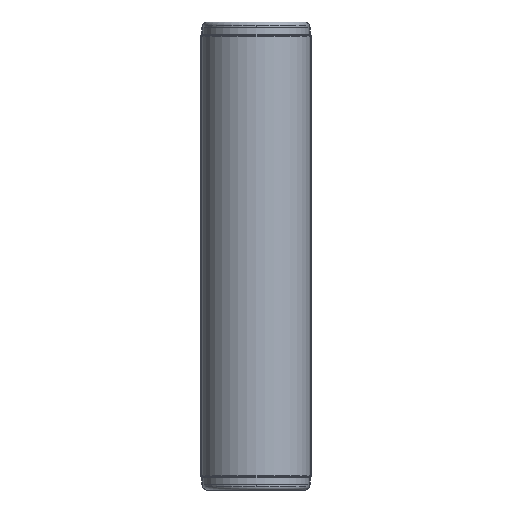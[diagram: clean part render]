
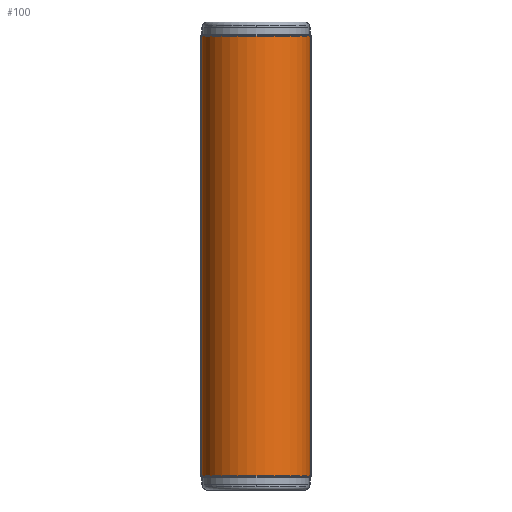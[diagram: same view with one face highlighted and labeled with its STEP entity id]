
A CAD part, left-side view. The second image highlights one B-rep face of the part: STEP entity #100.
In plain terms, the highlighted cylindrical face has radius 75.3 mm (diameter 150.6 mm), a partial arc.
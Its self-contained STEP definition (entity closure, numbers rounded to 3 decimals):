
#53 = CARTESIAN_POINT ( 'NONE',  ( 0., 0., -303.8 ) ) ;
#100 = ADVANCED_FACE ( 'NONE', ( #2810 ), #3679, .T. ) ;
#117 = CARTESIAN_POINT ( 'NONE',  ( 0., 0., 303.8 ) ) ;
#118 = EDGE_LOOP ( 'NONE', ( #4031, #2329, #4883, #5766 ) ) ;
#654 = DIRECTION ( 'NONE',  ( 0., 0., -1. ) ) ;
#1012 = CARTESIAN_POINT ( 'NONE',  ( -4.374, 75.173, -303.8 ) ) ;
#1049 = AXIS2_PLACEMENT_3D ( 'NONE', #53, #4703, #3813 ) ;
#1135 = DIRECTION ( 'NONE',  ( 0., 0., 1. ) ) ;
#1175 = LINE ( 'NONE', #2594, #3227 ) ;
#1240 = VERTEX_POINT ( 'NONE', #2389 ) ;
#1420 = VERTEX_POINT ( 'NONE', #1012 ) ;
#1526 = EDGE_CURVE ( 'NONE', #4823, #1420, #4414, .T. ) ;
#1656 = CARTESIAN_POINT ( 'NONE',  ( -4.374, 75.173, 303.8 ) ) ;
#1663 = DIRECTION ( 'NONE',  ( 1., 0., 0. ) ) ;
#1664 = CARTESIAN_POINT ( 'NONE',  ( -4.374, -75.173, -303.8 ) ) ;
#1715 = AXIS2_PLACEMENT_3D ( 'NONE', #3907, #1135, #1663 ) ;
#2081 = DIRECTION ( 'NONE',  ( 0., 0., 1. ) ) ;
#2329 = ORIENTED_EDGE ( 'NONE', *, *, #4316, .T. ) ;
#2389 = CARTESIAN_POINT ( 'NONE',  ( -4.374, -75.173, 303.8 ) ) ;
#2594 = CARTESIAN_POINT ( 'NONE',  ( -4.374, -75.173, 303.8 ) ) ;
#2810 = FACE_OUTER_BOUND ( 'NONE', #118, .T. ) ;
#3227 = VECTOR ( 'NONE', #4842, 1000. ) ;
#3377 = DIRECTION ( 'NONE',  ( 1., 0., 0. ) ) ;
#3620 = VECTOR ( 'NONE', #654, 1000. ) ;
#3679 = CYLINDRICAL_SURFACE ( 'NONE', #1715, 75.3 ) ;
#3813 = DIRECTION ( 'NONE',  ( 1., 0., 0. ) ) ;
#3907 = CARTESIAN_POINT ( 'NONE',  ( 0., 0., 0. ) ) ;
#3978 = VERTEX_POINT ( 'NONE', #1664 ) ;
#4031 = ORIENTED_EDGE ( 'NONE', *, *, #1526, .T. ) ;
#4316 = EDGE_CURVE ( 'NONE', #1420, #3978, #4494, .T. ) ;
#4345 = CARTESIAN_POINT ( 'NONE',  ( -4.374, 75.173, 303.8 ) ) ;
#4394 = EDGE_CURVE ( 'NONE', #4823, #1240, #5216, .T. ) ;
#4414 = LINE ( 'NONE', #4345, #3620 ) ;
#4494 = CIRCLE ( 'NONE', #1049, 75.3 ) ;
#4703 = DIRECTION ( 'NONE',  ( 0., 0., 1. ) ) ;
#4823 = VERTEX_POINT ( 'NONE', #1656 ) ;
#4842 = DIRECTION ( 'NONE',  ( 0., 0., -1. ) ) ;
#4883 = ORIENTED_EDGE ( 'NONE', *, *, #5326, .F. ) ;
#5098 = AXIS2_PLACEMENT_3D ( 'NONE', #117, #2081, #3377 ) ;
#5216 = CIRCLE ( 'NONE', #5098, 75.3 ) ;
#5326 = EDGE_CURVE ( 'NONE', #1240, #3978, #1175, .T. ) ;
#5766 = ORIENTED_EDGE ( 'NONE', *, *, #4394, .F. ) ;
